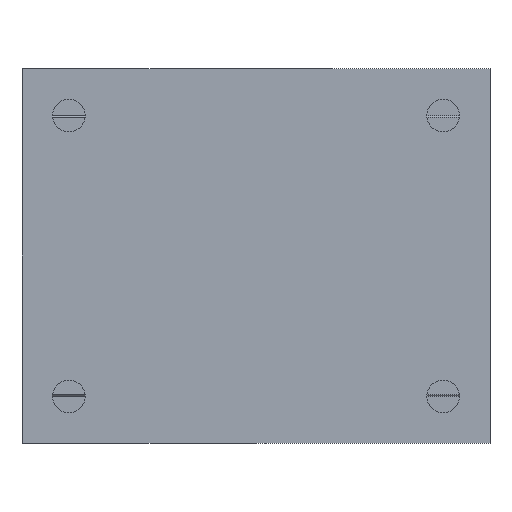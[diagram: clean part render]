
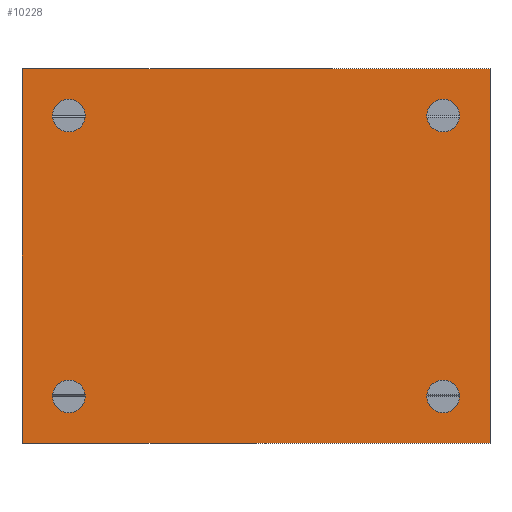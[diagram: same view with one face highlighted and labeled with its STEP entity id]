
A CAD part, front view. The second image highlights one B-rep face of the part: STEP entity #10228.
In plain terms, the highlighted planar face has unit normal (0, -1, 0).
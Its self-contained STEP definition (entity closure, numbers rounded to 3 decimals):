
#344=CIRCLE('',#10830,1.75);
#345=CIRCLE('',#10831,1.75);
#346=CIRCLE('',#10832,1.75);
#347=CIRCLE('',#10833,1.75);
#1044=ORIENTED_EDGE('',*,*,#4189,.T.);
#1045=ORIENTED_EDGE('',*,*,#4190,.F.);
#1046=ORIENTED_EDGE('',*,*,#4191,.F.);
#1047=ORIENTED_EDGE('',*,*,#4192,.F.);
#1048=ORIENTED_EDGE('',*,*,#4142,.T.);
#1049=ORIENTED_EDGE('',*,*,#4193,.F.);
#1050=ORIENTED_EDGE('',*,*,#4194,.F.);
#1051=ORIENTED_EDGE('',*,*,#4187,.T.);
#4142=EDGE_CURVE('',#5721,#5720,#6780,.T.);
#4187=EDGE_CURVE('',#5756,#5721,#6823,.T.);
#4189=EDGE_CURVE('',#5757,#5757,#344,.T.);
#4190=EDGE_CURVE('',#5758,#5758,#345,.T.);
#4191=EDGE_CURVE('',#5759,#5759,#346,.T.);
#4192=EDGE_CURVE('',#5760,#5760,#347,.T.);
#4193=EDGE_CURVE('',#5761,#5720,#6825,.T.);
#4194=EDGE_CURVE('',#5756,#5761,#6826,.T.);
#5720=VERTEX_POINT('',#15414);
#5721=VERTEX_POINT('',#15416);
#5756=VERTEX_POINT('',#15503);
#5757=VERTEX_POINT('',#15507);
#5758=VERTEX_POINT('',#15509);
#5759=VERTEX_POINT('',#15511);
#5760=VERTEX_POINT('',#15513);
#5761=VERTEX_POINT('',#15515);
#6780=LINE('',#15415,#7742);
#6823=LINE('',#15502,#7785);
#6825=LINE('',#15514,#7787);
#6826=LINE('',#15516,#7788);
#7742=VECTOR('',#12045,1000.);
#7785=VECTOR('',#12106,1000.);
#7787=VECTOR('',#12118,1000.);
#7788=VECTOR('',#12119,1000.);
#8689=EDGE_LOOP('',(#1044));
#8690=EDGE_LOOP('',(#1045));
#8691=EDGE_LOOP('',(#1046));
#8692=EDGE_LOOP('',(#1047));
#8693=EDGE_LOOP('',(#1048,#1049,#1050,#1051));
#9329=FACE_BOUND('',#8689,.T.);
#9330=FACE_BOUND('',#8690,.T.);
#9331=FACE_BOUND('',#8691,.T.);
#9332=FACE_BOUND('',#8692,.T.);
#9333=FACE_BOUND('',#8693,.T.);
#9967=PLANE('',#10829);
#10228=ADVANCED_FACE('',(#9329,#9330,#9331,#9332,#9333),#9967,.F.);
#10829=AXIS2_PLACEMENT_3D('',#15505,#12108,#12109);
#10830=AXIS2_PLACEMENT_3D('',#15506,#12110,#12111);
#10831=AXIS2_PLACEMENT_3D('',#15508,#12112,#12113);
#10832=AXIS2_PLACEMENT_3D('',#15510,#12114,#12115);
#10833=AXIS2_PLACEMENT_3D('',#15512,#12116,#12117);
#12045=DIRECTION('',(0.,0.,-1.));
#12106=DIRECTION('',(-1.,0.,0.));
#12108=DIRECTION('',(0.,1.,0.));
#12109=DIRECTION('',(0.,0.,1.));
#12110=DIRECTION('',(0.,1.,0.));
#12111=DIRECTION('',(0.,0.,1.));
#12112=DIRECTION('',(0.,-1.,0.));
#12113=DIRECTION('',(0.,0.,-1.));
#12114=DIRECTION('',(0.,-1.,0.));
#12115=DIRECTION('',(0.,0.,-1.));
#12116=DIRECTION('',(0.,-1.,0.));
#12117=DIRECTION('',(0.,0.,-1.));
#12118=DIRECTION('',(-1.,0.,0.));
#12119=DIRECTION('',(0.,0.,-1.));
#15414=CARTESIAN_POINT('',(0.,0.,-20.));
#15415=CARTESIAN_POINT('',(0.,0.,20.));
#15416=CARTESIAN_POINT('',(0.,0.,20.));
#15502=CARTESIAN_POINT('',(50.,0.,20.));
#15503=CARTESIAN_POINT('',(50.,0.,20.));
#15505=CARTESIAN_POINT('',(50.,0.,20.));
#15506=CARTESIAN_POINT('',(45.,0.,15.));
#15507=CARTESIAN_POINT('',(45.,0.,16.75));
#15508=CARTESIAN_POINT('',(45.,0.,-15.));
#15509=CARTESIAN_POINT('',(45.,0.,-16.75));
#15510=CARTESIAN_POINT('',(5.,0.,-15.));
#15511=CARTESIAN_POINT('',(5.,0.,-16.75));
#15512=CARTESIAN_POINT('',(5.,0.,15.));
#15513=CARTESIAN_POINT('',(5.,0.,13.25));
#15514=CARTESIAN_POINT('',(50.,0.,-20.));
#15515=CARTESIAN_POINT('',(50.,0.,-20.));
#15516=CARTESIAN_POINT('',(50.,0.,20.));
